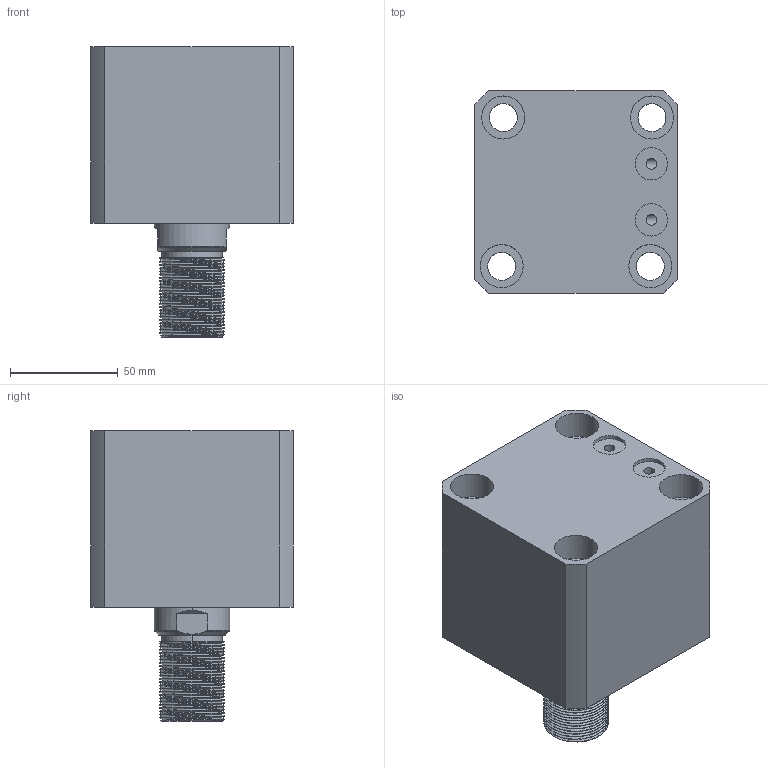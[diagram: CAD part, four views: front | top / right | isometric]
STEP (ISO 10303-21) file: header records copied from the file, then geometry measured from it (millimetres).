
FILE_DESCRIPTION (( 'STEP AP214' ), '1' );
FILE_NAME ('chtb-sdmb63x15w_asm.STEP', '2018-05-18T10:58:50', ( 'Windows' ), ( 'Microsoft' ), 'SwSTEP 2.0', 'SolidWorks 2015', '' );
FILE_SCHEMA (( 'AUTOMOTIVE_DESIGN' ));
Length unit declared in the file: millimetre
Products named in the file (4): CHTB-SDMB63X15NBT; CHTB63X15WHSG; CHTB-63QG; chtb-sdmb63x15w_asm
Assembly tree (3 placements, depth 2):
  chtb-sdmb63x15w_asm
    CHTB-63QG
    CHTB63X15WHSG
    CHTB-SDMB63X15NBT
Bounding box: 94 x 94 x 135 mm (x, y, z)
Volume: 660615.1 mm3; surface area: 120431 mm2
Topology: 3 solids, 3 shells, 218 faces, 628 edges, 427 vertices
Faces by surface type: cylinder 156, plane 33, bspline 14, cone 9, torus 6
Entity records: 22278 total; most frequent: CARTESIAN_POINT 17042, ORIENTED_EDGE 1248, DIRECTION 869, EDGE_CURVE 624, VERTEX_POINT 427, AXIS2_PLACEMENT_3D 339, EDGE_LOOP 251, ADVANCED_FACE 218
